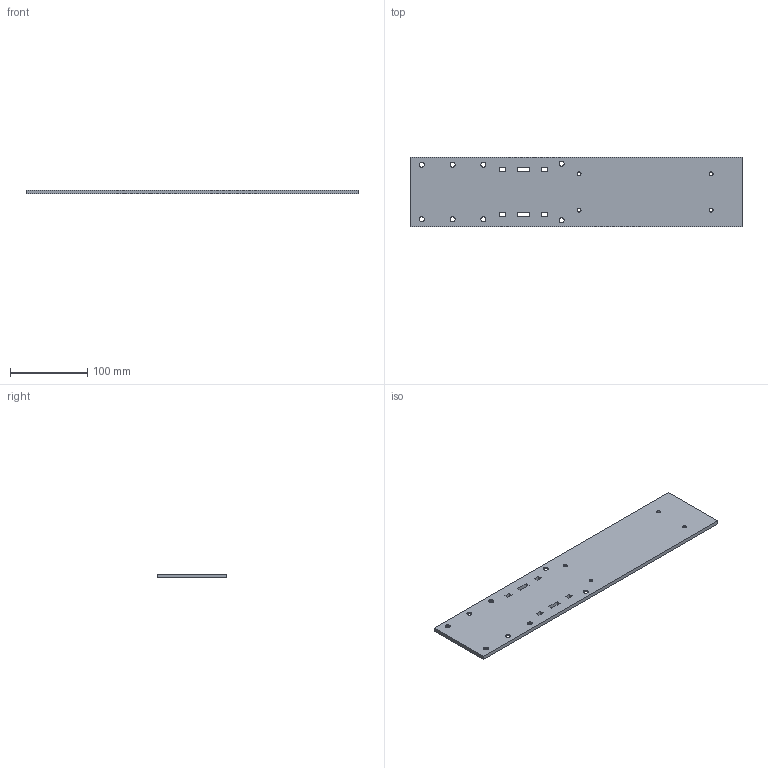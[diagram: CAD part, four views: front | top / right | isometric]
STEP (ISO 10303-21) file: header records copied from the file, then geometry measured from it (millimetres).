
FILE_DESCRIPTION(('CATIA V5 STEP Exchange'),'2;1');
FILE_NAME('D:\PER\CAO_PER_MODIF_2025\CAO_PER_pick&place_2024P\Sous_Ensemble_Flacon\Support_Bloc_Flacon.stp','2025-04-30T08:15:12+00:00',('none'),('none'),'Version 5-6 Release 2012','CATIA V5 STEP AP203','none');
FILE_SCHEMA(('CONFIG_CONTROL_DESIGN'));
Length unit declared in the file: millimetre
Products named in the file (1): Support_Bloc_Flacon
Bounding box: 430 x 90 x 5 mm (x, y, z)
Volume: 187877.1 mm3; surface area: 83049.6 mm2
Topology: 1 solids, 1 shells, 78 faces, 218 edges, 149 vertices
Faces by surface type: plane 30, cylinder 24, cone 24
Entity records: 2422 total; most frequent: CARTESIAN_POINT 427, ORIENTED_EDGE 408, DIRECTION 322, EDGE_CURVE 204, VECTOR 146, LINE 146, VERTEX_POINT 128, AXIS2_PLACEMENT_3D 125
